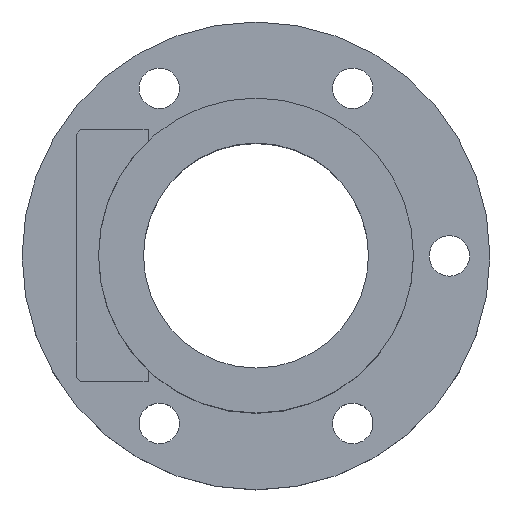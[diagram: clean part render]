
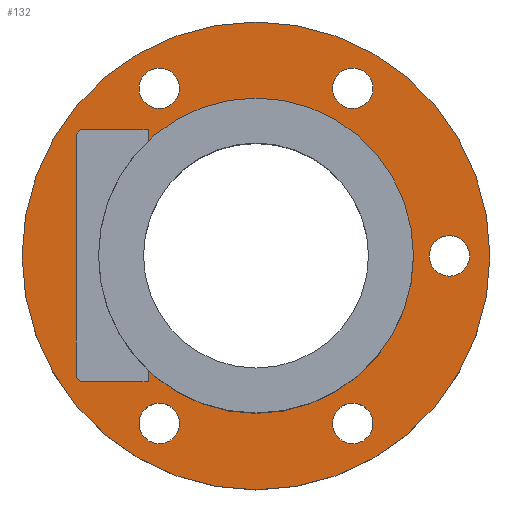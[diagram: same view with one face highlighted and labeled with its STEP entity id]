
A CAD part, top view. The second image highlights one B-rep face of the part: STEP entity #132.
In plain terms, the highlighted planar face has unit normal (0, 0, 1).
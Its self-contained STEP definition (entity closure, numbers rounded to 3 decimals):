
#97=PLANE('',#557);
#114=FACE_OUTER_BOUND('',#269,.T.);
#132=ADVANCED_FACE('',(#221,#222,#223,#114,#224,#225,#226),#97,.T.);
#221=FACE_BOUND('',#266,.T.);
#222=FACE_BOUND('',#267,.T.);
#223=FACE_BOUND('',#268,.T.);
#224=FACE_BOUND('',#270,.T.);
#225=FACE_BOUND('',#271,.T.);
#226=FACE_BOUND('',#272,.T.);
#266=EDGE_LOOP('',(#331));
#267=EDGE_LOOP('',(#332));
#268=EDGE_LOOP('',(#333));
#269=EDGE_LOOP('',(#334));
#270=EDGE_LOOP('',(#335));
#271=EDGE_LOOP('',(#336));
#272=EDGE_LOOP('',(#337));
#331=ORIENTED_EDGE('',*,*,#473,.F.);
#332=ORIENTED_EDGE('',*,*,#474,.F.);
#333=ORIENTED_EDGE('',*,*,#468,.F.);
#334=ORIENTED_EDGE('',*,*,#475,.T.);
#335=ORIENTED_EDGE('',*,*,#476,.F.);
#336=ORIENTED_EDGE('',*,*,#477,.F.);
#337=ORIENTED_EDGE('',*,*,#478,.F.);
#426=VERTEX_POINT('',#748);
#431=VERTEX_POINT('',#759);
#432=VERTEX_POINT('',#761);
#433=VERTEX_POINT('',#763);
#434=VERTEX_POINT('',#765);
#435=VERTEX_POINT('',#767);
#436=VERTEX_POINT('',#769);
#468=EDGE_CURVE('',#426,#426,#518,.T.);
#473=EDGE_CURVE('',#431,#431,#521,.T.);
#474=EDGE_CURVE('',#432,#432,#522,.T.);
#475=EDGE_CURVE('',#433,#433,#523,.T.);
#476=EDGE_CURVE('',#434,#434,#524,.T.);
#477=EDGE_CURVE('',#435,#435,#525,.T.);
#478=EDGE_CURVE('',#436,#436,#526,.T.);
#518=CIRCLE('',#547,35.);
#521=CIRCLE('',#551,4.5);
#522=CIRCLE('',#552,4.5);
#523=CIRCLE('',#553,52.);
#524=CIRCLE('',#554,4.5);
#525=CIRCLE('',#555,4.5);
#526=CIRCLE('',#556,4.5);
#547=AXIS2_PLACEMENT_3D('',#747,#608,#609);
#551=AXIS2_PLACEMENT_3D('',#758,#618,#619);
#552=AXIS2_PLACEMENT_3D('',#760,#620,#621);
#553=AXIS2_PLACEMENT_3D('',#762,#622,#623);
#554=AXIS2_PLACEMENT_3D('',#764,#624,#625);
#555=AXIS2_PLACEMENT_3D('',#766,#626,#627);
#556=AXIS2_PLACEMENT_3D('',#768,#628,#629);
#557=AXIS2_PLACEMENT_3D('',#770,#630,#631);
#608=DIRECTION('',(0.,0.,1.));
#609=DIRECTION('',(1.,0.,0.));
#618=DIRECTION('',(0.,0.,1.));
#619=DIRECTION('',(-0.5,-0.866,0.));
#620=DIRECTION('',(0.,0.,1.));
#621=DIRECTION('',(0.5,0.866,0.));
#622=DIRECTION('',(0.,0.,1.));
#623=DIRECTION('',(1.,0.,0.));
#624=DIRECTION('',(0.,0.,1.));
#625=DIRECTION('',(1.,0.,0.));
#626=DIRECTION('',(0.,0.,1.));
#627=DIRECTION('',(-1.,0.,0.));
#628=DIRECTION('',(0.,0.,1.));
#629=DIRECTION('',(0.5,-0.866,0.));
#630=DIRECTION('',(0.,0.,1.));
#631=DIRECTION('',(1.,0.,0.));
#747=CARTESIAN_POINT('',(0.,0.,16.));
#748=CARTESIAN_POINT('',(35.,0.,16.));
#758=CARTESIAN_POINT('',(21.5,-37.239,16.));
#759=CARTESIAN_POINT('',(19.25,-41.136,16.));
#760=CARTESIAN_POINT('',(-21.5,37.239,16.));
#761=CARTESIAN_POINT('',(-19.25,41.136,16.));
#762=CARTESIAN_POINT('',(0.,0.,16.));
#763=CARTESIAN_POINT('',(52.,0.,16.));
#764=CARTESIAN_POINT('',(21.5,37.239,16.));
#765=CARTESIAN_POINT('',(26.,37.239,16.));
#766=CARTESIAN_POINT('',(-21.5,-37.239,16.));
#767=CARTESIAN_POINT('',(-26.,-37.239,16.));
#768=CARTESIAN_POINT('',(43.,0.,16.));
#769=CARTESIAN_POINT('',(45.25,-3.897,16.));
#770=CARTESIAN_POINT('',(0.,0.,16.));
